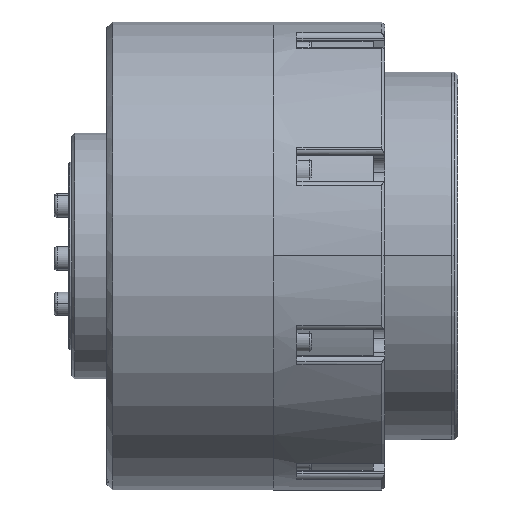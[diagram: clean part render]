
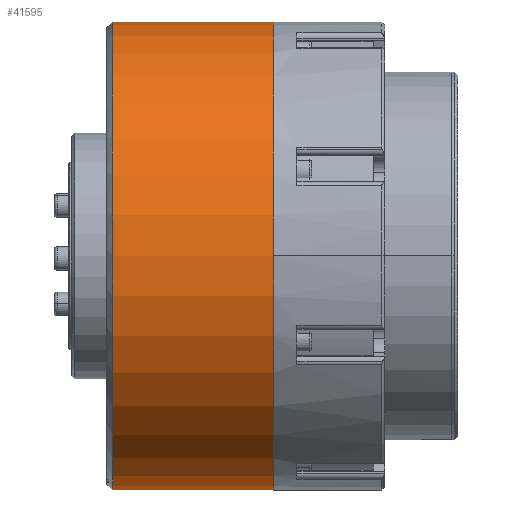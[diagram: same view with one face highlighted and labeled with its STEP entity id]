
A CAD part, top view. The second image highlights one B-rep face of the part: STEP entity #41595.
In plain terms, the highlighted cylindrical face has radius 40 mm (diameter 80 mm), a partial arc.
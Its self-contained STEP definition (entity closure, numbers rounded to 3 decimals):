
#4989 = CARTESIAN_POINT ( 'NONE',  ( 74.54, 40., 0. ) ) ;
#6490 = ORIENTED_EDGE ( 'NONE', *, *, #126082, .T. ) ;
#7117 = DIRECTION ( 'NONE',  ( 0., -1., 0. ) ) ;
#13615 = AXIS2_PLACEMENT_3D ( 'NONE', #77226, #47563, #7117 ) ;
#13950 = DIRECTION ( 'NONE',  ( 1., 0., 0. ) ) ;
#14613 = DIRECTION ( 'NONE',  ( 0., -1., 0. ) ) ;
#15677 = VERTEX_POINT ( 'NONE', #92933 ) ;
#15808 = VERTEX_POINT ( 'NONE', #98639 ) ;
#22564 = CARTESIAN_POINT ( 'NONE',  ( 107.506, -40., 0. ) ) ;
#29493 = AXIS2_PLACEMENT_3D ( 'NONE', #49600, #68994, #99134 ) ;
#35380 = ORIENTED_EDGE ( 'NONE', *, *, #92286, .T. ) ;
#41595 = ADVANCED_FACE ( 'NONE', ( #113600 ), #114227, .T. ) ;
#47563 = DIRECTION ( 'NONE',  ( 1., 0., 0. ) ) ;
#49600 = CARTESIAN_POINT ( 'NONE',  ( 47.04, 0., 0. ) ) ;
#54577 = EDGE_CURVE ( 'NONE', #61629, #15808, #87432, .T. ) ;
#57398 = CARTESIAN_POINT ( 'NONE',  ( 47.04, -40., 0. ) ) ;
#61629 = VERTEX_POINT ( 'NONE', #4989 ) ;
#61637 = AXIS2_PLACEMENT_3D ( 'NONE', #94276, #112334, #14613 ) ;
#62854 = LINE ( 'NONE', #72501, #102940 ) ;
#68994 = DIRECTION ( 'NONE',  ( 1., 0., 0. ) ) ;
#72501 = CARTESIAN_POINT ( 'NONE',  ( 107.506, 40., 0. ) ) ;
#73887 = EDGE_CURVE ( 'NONE', #15677, #61629, #62854, .T. ) ;
#77226 = CARTESIAN_POINT ( 'NONE',  ( 74.54, 0., 0. ) ) ;
#80987 = VERTEX_POINT ( 'NONE', #57398 ) ;
#82034 = EDGE_LOOP ( 'NONE', ( #87079, #6490, #35380, #116807 ) ) ;
#87079 = ORIENTED_EDGE ( 'NONE', *, *, #73887, .F. ) ;
#87432 = CIRCLE ( 'NONE', #13615, 40. ) ;
#92286 = EDGE_CURVE ( 'NONE', #80987, #15808, #110646, .T. ) ;
#92579 = DIRECTION ( 'NONE',  ( 1., 0., 0. ) ) ;
#92933 = CARTESIAN_POINT ( 'NONE',  ( 47.04, 40., 0. ) ) ;
#94276 = CARTESIAN_POINT ( 'NONE',  ( 107.506, 0., 0. ) ) ;
#98639 = CARTESIAN_POINT ( 'NONE',  ( 74.54, -40., 0. ) ) ;
#99134 = DIRECTION ( 'NONE',  ( 0., -1., 0. ) ) ;
#102940 = VECTOR ( 'NONE', #13950, 1000. ) ;
#108891 = VECTOR ( 'NONE', #92579, 1000. ) ;
#109502 = CIRCLE ( 'NONE', #29493, 40. ) ;
#110646 = LINE ( 'NONE', #22564, #108891 ) ;
#112334 = DIRECTION ( 'NONE',  ( 1., 0., 0. ) ) ;
#113600 = FACE_OUTER_BOUND ( 'NONE', #82034, .T. ) ;
#114227 = CYLINDRICAL_SURFACE ( 'NONE', #61637, 40. ) ;
#116807 = ORIENTED_EDGE ( 'NONE', *, *, #54577, .F. ) ;
#126082 = EDGE_CURVE ( 'NONE', #15677, #80987, #109502, .T. ) ;
